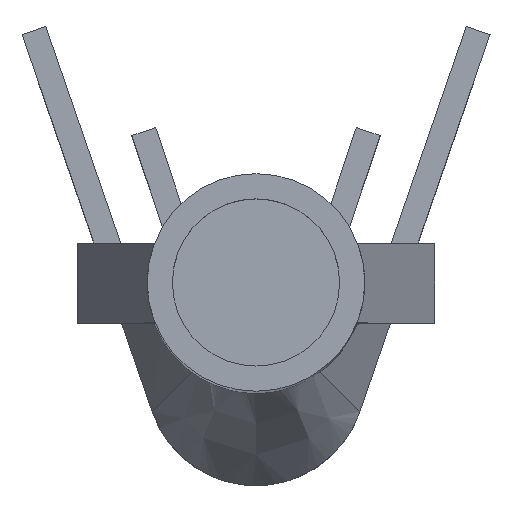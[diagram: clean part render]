
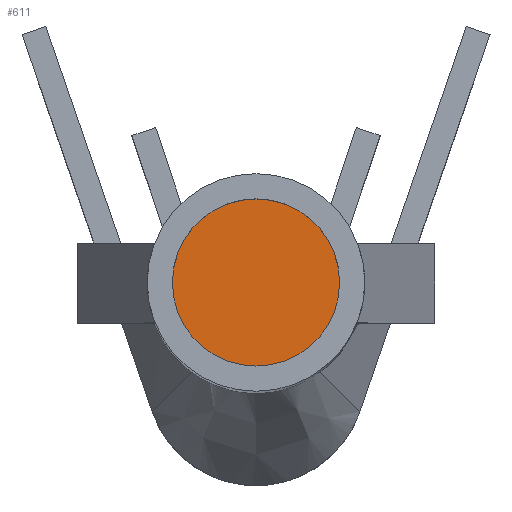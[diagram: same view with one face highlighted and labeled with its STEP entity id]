
A CAD part, top view. The second image highlights one B-rep face of the part: STEP entity #611.
In plain terms, the highlighted planar face has unit normal (0, 0, 1).
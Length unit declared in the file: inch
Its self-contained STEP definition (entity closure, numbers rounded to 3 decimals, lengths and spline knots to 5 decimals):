
#111 = CIRCLE ( 'NONE', #1889, 0.0419 ) ;
#324 = CARTESIAN_POINT ( 'NONE',  ( 0., 0., -0.03937 ) ) ;
#325 = DIRECTION ( 'NONE',  ( 0., 0., 1. ) ) ;
#326 = DIRECTION ( 'NONE',  ( 1., 0., 0. ) ) ;
#338 = VERTEX_POINT ( 'NONE', #339 ) ;
#339 = CARTESIAN_POINT ( 'NONE',  ( 0.0419, 0., -0.03937 ) ) ;
#611 = ADVANCED_FACE ( 'NONE', ( #1508 ), #1477, .T. ) ;
#657 = EDGE_LOOP ( 'NONE', ( #2140 ) ) ;
#919 = EDGE_CURVE ( 'NONE', #338, #338, #111, .T. ) ;
#1316 = AXIS2_PLACEMENT_3D ( 'NONE', #1499, #1506, #1549 ) ;
#1477 = PLANE ( 'NONE',  #1316 ) ;
#1499 = CARTESIAN_POINT ( 'NONE',  ( 0., 0., -0.03937 ) ) ;
#1506 = DIRECTION ( 'NONE',  ( 0., 0., 1. ) ) ;
#1508 = FACE_OUTER_BOUND ( 'NONE', #657, .T. ) ;
#1549 = DIRECTION ( 'NONE',  ( 1., 0., 0. ) ) ;
#1889 = AXIS2_PLACEMENT_3D ( 'NONE', #324, #325, #326 ) ;
#2140 = ORIENTED_EDGE ( 'NONE', *, *, #919, .T. ) ;
